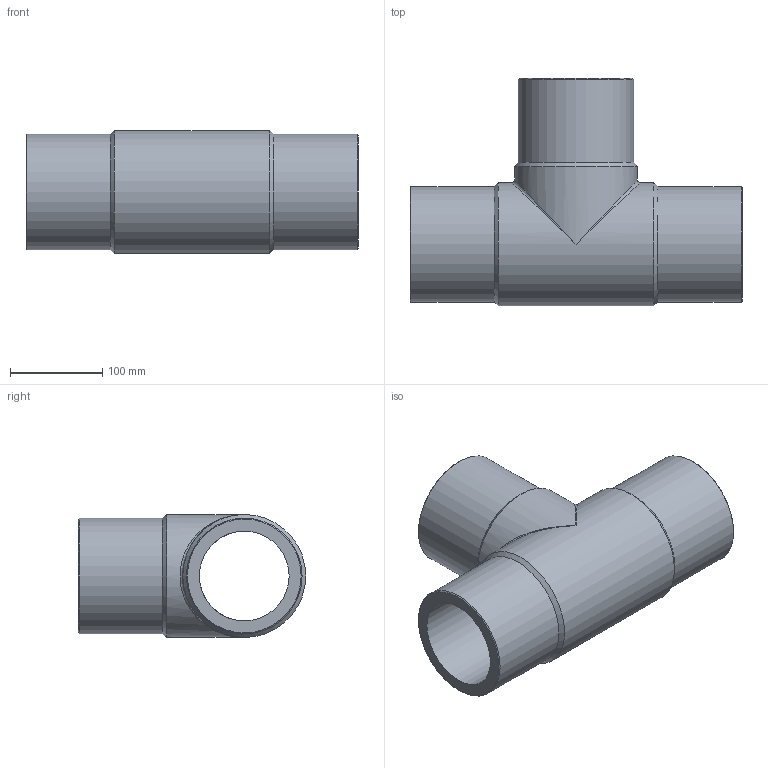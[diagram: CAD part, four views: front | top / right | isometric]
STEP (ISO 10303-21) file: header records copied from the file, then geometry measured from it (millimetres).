
FILE_DESCRIPTION(/* description */ ('Unknown'),/* implementation_level */ '2;1');
FILE_NAME(/* name */ 'TP125G',/* time_stamp */ '2021-08-13T10:00:37+02:00',/* author */ ('Unknown'),/* organization */ ('Unknown'),/* preprocessor_version */ 'ST-DEVELOPER v16.7',/* originating_system */ 'Solid Edge',/* authorisation */ 'Unknown');
FILE_SCHEMA (('AUTOMOTIVE_DESIGN {1 0 10303 214 3 1 1}'));
Length unit declared in the file: millimetre
Products named in the file (1): TP125G
Bounding box: 359 x 246 x 133 mm (x, y, z)
Volume: 2568078.1 mm3; surface area: 343466.6 mm2
Topology: 1 solids, 1 shells, 18 faces, 44 edges, 23 vertices
Faces by surface type: cylinder 7, cone 6, plane 3, bspline 2
Full cylindrical faces by diameter (mm): 97 x2, 125 x3, 133 x2
Entity records: 504 total; most frequent: CARTESIAN_POINT 147, DIRECTION 76, ORIENTED_EDGE 42, AXIS2_PLACEMENT_3D 38, EDGE_LOOP 36, FACE_BOUND 36, EDGE_CURVE 21, VERTEX_POINT 19
